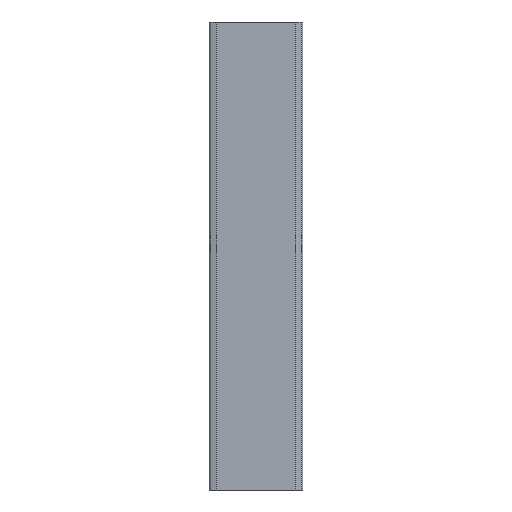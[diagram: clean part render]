
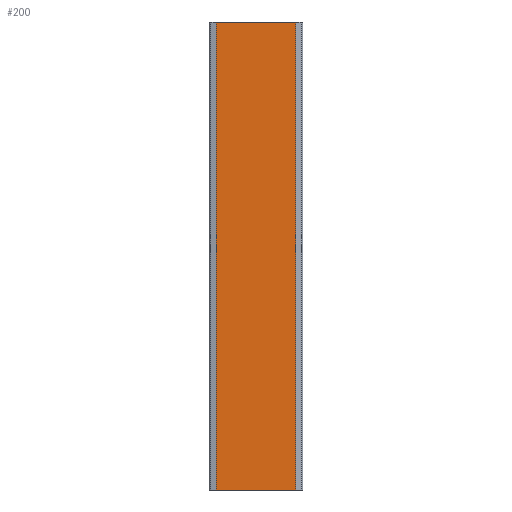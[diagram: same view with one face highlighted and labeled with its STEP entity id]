
A CAD part, front view. The second image highlights one B-rep face of the part: STEP entity #200.
In plain terms, the highlighted planar face has unit normal (0, -1, 0).
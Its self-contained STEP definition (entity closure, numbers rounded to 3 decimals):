
#144=CARTESIAN_POINT('',(36.5,-11.,430.0));
#145=VERTEX_POINT('',#144);
#152=CARTESIAN_POINT('',(36.5,-11.,0.0));
#153=VERTEX_POINT('',#152);
#154=CARTESIAN_POINT('',(36.5,-11.,0.0));
#155=DIRECTION('',(0.0,0.0,1.0));
#156=VECTOR('',#155,430.0);
#157=LINE('',#154,#156);
#158=EDGE_CURVE('',#153,#145,#157,.T.);
#170=CARTESIAN_POINT('',(36.5,-11.,0.0));
#171=DIRECTION('',(0.0,-1.0,0.0));
#172=DIRECTION('',(0.0,0.0,-1.0));
#173=AXIS2_PLACEMENT_3D('',#170,#171,#172);
#174=PLANE('',#173);
#175=CARTESIAN_POINT('',(-36.5,-11.,430.0));
#176=VERTEX_POINT('',#175);
#177=CARTESIAN_POINT('',(36.5,-11.,430.0));
#178=DIRECTION('',(-1.0,0.0,0.0));
#179=VECTOR('',#178,73.);
#180=LINE('',#177,#179);
#181=EDGE_CURVE('',#145,#176,#180,.T.);
#182=ORIENTED_EDGE('',*,*,#181,.T.);
#183=CARTESIAN_POINT('',(-36.5,-11.,0.0));
#184=VERTEX_POINT('',#183);
#185=CARTESIAN_POINT('',(-36.5,-11.,0.0));
#186=DIRECTION('',(0.0,0.0,1.0));
#187=VECTOR('',#186,430.0);
#188=LINE('',#185,#187);
#189=EDGE_CURVE('',#184,#176,#188,.T.);
#190=ORIENTED_EDGE('',*,*,#189,.F.);
#191=CARTESIAN_POINT('',(-36.5,-11.,0.0));
#192=DIRECTION('',(1.0,0.0,0.0));
#193=VECTOR('',#192,73.);
#194=LINE('',#191,#193);
#195=EDGE_CURVE('',#184,#153,#194,.T.);
#196=ORIENTED_EDGE('',*,*,#195,.T.);
#197=ORIENTED_EDGE('',*,*,#158,.T.);
#198=EDGE_LOOP('',(#182,#190,#196,#197));
#199=FACE_OUTER_BOUND('',#198,.T.);
#200=ADVANCED_FACE('',(#199),#174,.T.);
